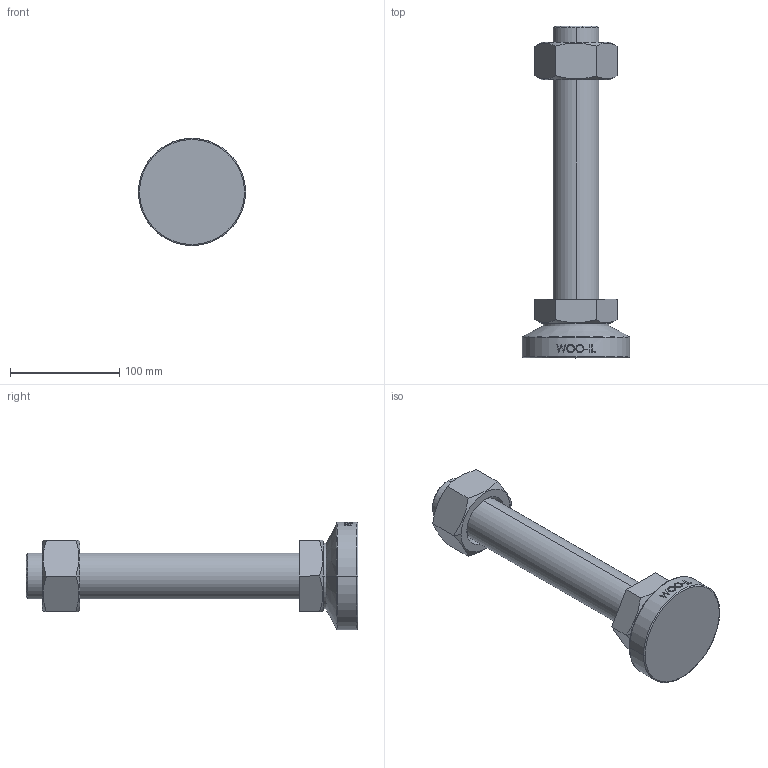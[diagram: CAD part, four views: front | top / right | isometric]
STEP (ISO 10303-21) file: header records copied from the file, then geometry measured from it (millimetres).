
FILE_DESCRIPTION (( 'STEP AP214' ), '1' );
FILE_NAME ('MFB98-M42-250.step', '2022-06-27T08:37:52', ( '' ), ( '' ), 'SwSTEP 2.0', 'SolidWorks 2019', '' );
FILE_SCHEMA (( 'AUTOMOTIVE_DESIGN' ));
Length unit declared in the file: millimetre
Products named in the file (1): MFB98-M42-250
Bounding box: 98 x 303.5 x 98 mm (x, y, z)
Volume: 703753.3 mm3; surface area: 82602.5 mm2
Topology: 3 solids, 3 shells, 97 faces, 225 edges, 144 vertices
Faces by surface type: plane 47, cylinder 16, bspline 16, cone 14, torus 4
Entity records: 4315 total; most frequent: CARTESIAN_POINT 2185, ORIENTED_EDGE 450, DIRECTION 385, EDGE_CURVE 225, AXIS2_PLACEMENT_3D 144, VERTEX_POINT 144, EDGE_LOOP 109, FACE_OUTER_BOUND 97
